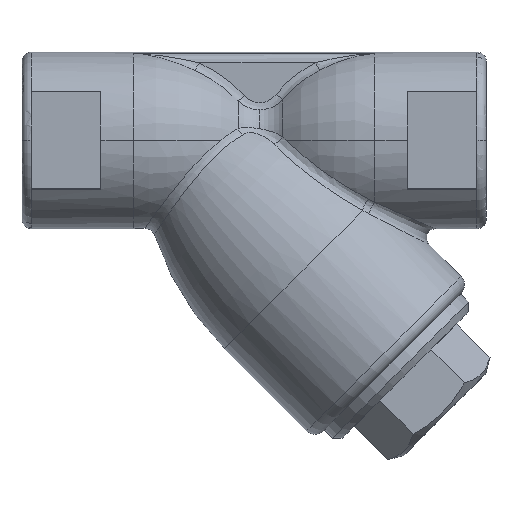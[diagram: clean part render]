
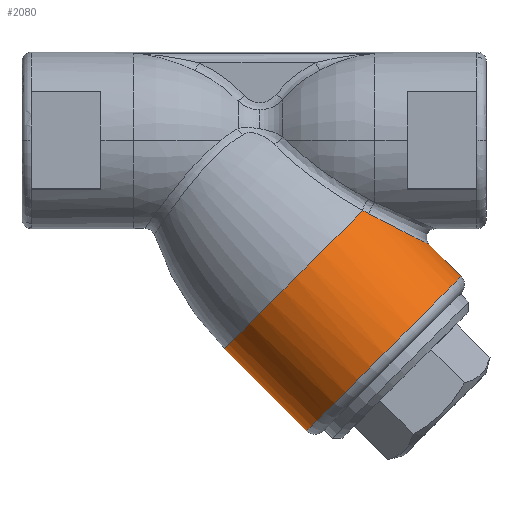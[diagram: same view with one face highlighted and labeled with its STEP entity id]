
A CAD part, top view. The second image highlights one B-rep face of the part: STEP entity #2080.
In plain terms, the highlighted cylindrical face has radius 23.5 mm (diameter 47 mm), a partial arc.
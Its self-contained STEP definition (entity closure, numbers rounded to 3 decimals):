
#9 = ORIENTED_EDGE ( 'NONE', *, *, #748, .T. ) ;
#71 = CARTESIAN_POINT ( 'NONE',  ( 42.854, -15.913, 13.76 ) ) ;
#87 = CARTESIAN_POINT ( 'NONE',  ( 42.371, -15.658, 13.984 ) ) ;
#103 = VERTEX_POINT ( 'NONE', #71 ) ;
#133 = CARTESIAN_POINT ( 'NONE',  ( 41.887, -15.394, 14.19 ) ) ;
#257 = CARTESIAN_POINT ( 'NONE',  ( 62.579, -29.345, 0. ) ) ;
#301 = CARTESIAN_POINT ( 'NONE',  ( 55.648, -22.414, 0. ) ) ;
#328 = CIRCLE ( 'NONE', #1172, 23.5 ) ;
#412 = CARTESIAN_POINT ( 'NONE',  ( -15.32, -17.914, 0. ) ) ;
#414 = LINE ( 'NONE', #1355, #3894 ) ;
#441 = AXIS2_PLACEMENT_3D ( 'NONE', #753, #1807, #1476 ) ;
#495 = FACE_OUTER_BOUND ( 'NONE', #3069, .T. ) ;
#583 = CIRCLE ( 'NONE', #441, 23.5 ) ;
#650 = VERTEX_POINT ( 'NONE', #301 ) ;
#662 = B_SPLINE_CURVE_WITH_KNOTS ( 'NONE', 3,
 ( #3142, #87, #133, #2815 ),
 .UNSPECIFIED., .F., .F.,
 ( 4, 4 ),
 ( 0., 0.002 ),
 .UNSPECIFIED. ) ;
#748 = EDGE_CURVE ( 'NONE', #3709, #650, #414, .T. ) ;
#753 = CARTESIAN_POINT ( 'NONE',  ( 45.962, -45.962, 0. ) ) ;
#845 = VERTEX_POINT ( 'NONE', #866 ) ;
#866 = CARTESIAN_POINT ( 'NONE',  ( 41.403, -15.118, 14.38 ) ) ;
#868 = CARTESIAN_POINT ( 'NONE',  ( 53.252, -21.227, 6.315 ) ) ;
#1064 = LINE ( 'NONE', #412, #3036 ) ;
#1116 = CARTESIAN_POINT ( 'NONE',  ( 42.854, -15.913, 13.76 ) ) ;
#1158 = CARTESIAN_POINT ( 'NONE',  ( 54.629, -21.911, 4.188 ) ) ;
#1172 = AXIS2_PLACEMENT_3D ( 'NONE', #4139, #4183, #1181 ) ;
#1181 = DIRECTION ( 'NONE',  ( -0.707, -0.707, 0. ) ) ;
#1202 = CARTESIAN_POINT ( 'NONE',  ( 52.157, -20.68, 7.569 ) ) ;
#1355 = CARTESIAN_POINT ( 'NONE',  ( 17.914, 15.32, 0. ) ) ;
#1476 = DIRECTION ( 'NONE',  ( 0.707, 0.707, 0. ) ) ;
#1491 = B_SPLINE_CURVE_WITH_KNOTS ( 'NONE', 3,
 ( #2501, #2460, #4203, #1860, #1158, #1834, #868, #1202, #2544, #1815, #3830, #2215, #2808, #2477, #3546, #1116 ),
 .UNSPECIFIED., .F., .F.,
 ( 4, 2, 2, 2, 2, 2, 2, 4 ),
 ( 0.021, 0.024, 0.026, 0.029, 0.031, 0.034, 0.037, 0.042 ),
 .UNSPECIFIED. ) ;
#1512 = VERTEX_POINT ( 'NONE', #3394 ) ;
#1662 = EDGE_CURVE ( 'NONE', #1512, #845, #328, .T. ) ;
#1704 = ORIENTED_EDGE ( 'NONE', *, *, #2835, .T. ) ;
#1736 = EDGE_CURVE ( 'NONE', #650, #103, #1491, .T. ) ;
#1807 = DIRECTION ( 'NONE',  ( -0.707, 0.707, 0. ) ) ;
#1815 = CARTESIAN_POINT ( 'NONE',  ( 50.337, -19.766, 9.237 ) ) ;
#1829 = DIRECTION ( 'NONE',  ( -0.707, 0.707, 0. ) ) ;
#1834 = CARTESIAN_POINT ( 'NONE',  ( 53.761, -21.48, 5.635 ) ) ;
#1854 = CYLINDRICAL_SURFACE ( 'NONE', #4313, 23.5 ) ;
#1860 = CARTESIAN_POINT ( 'NONE',  ( 54.993, -22.09, 3.417 ) ) ;
#2080 = ADVANCED_FACE ( 'NONE', ( #495 ), #1854, .T. ) ;
#2167 = DIRECTION ( 'NONE',  ( -0.707, -0.707, 0. ) ) ;
#2196 = ORIENTED_EDGE ( 'NONE', *, *, #1662, .F. ) ;
#2215 = CARTESIAN_POINT ( 'NONE',  ( 48.393, -18.782, 10.682 ) ) ;
#2460 = CARTESIAN_POINT ( 'NONE',  ( 55.648, -22.414, 0.884 ) ) ;
#2477 = CARTESIAN_POINT ( 'NONE',  ( 45.688, -17.396, 12.366 ) ) ;
#2501 = CARTESIAN_POINT ( 'NONE',  ( 55.648, -22.414, 0. ) ) ;
#2544 = CARTESIAN_POINT ( 'NONE',  ( 51.57, -20.386, 8.148 ) ) ;
#2808 = CARTESIAN_POINT ( 'NONE',  ( 47.725, -18.441, 11.122 ) ) ;
#2815 = CARTESIAN_POINT ( 'NONE',  ( 41.403, -15.118, 14.38 ) ) ;
#2835 = EDGE_CURVE ( 'NONE', #103, #845, #662, .T. ) ;
#3036 = VECTOR ( 'NONE', #3997, 1000. ) ;
#3069 = EDGE_LOOP ( 'NONE', ( #4182, #9, #4138, #1704, #2196, #3313 ) ) ;
#3142 = CARTESIAN_POINT ( 'NONE',  ( 42.854, -15.913, 13.76 ) ) ;
#3157 = VERTEX_POINT ( 'NONE', #3758 ) ;
#3226 = EDGE_CURVE ( 'NONE', #3157, #3709, #583, .T. ) ;
#3313 = ORIENTED_EDGE ( 'NONE', *, *, #3882, .F. ) ;
#3394 = CARTESIAN_POINT ( 'NONE',  ( 11.643, -44.877, 0. ) ) ;
#3521 = CARTESIAN_POINT ( 'NONE',  ( 1.297, -1.297, 0. ) ) ;
#3546 = CARTESIAN_POINT ( 'NONE',  ( 44.286, -16.668, 13.098 ) ) ;
#3709 = VERTEX_POINT ( 'NONE', #257 ) ;
#3758 = CARTESIAN_POINT ( 'NONE',  ( 29.345, -62.579, 0. ) ) ;
#3830 = CARTESIAN_POINT ( 'NONE',  ( 49.698, -19.444, 9.74 ) ) ;
#3882 = EDGE_CURVE ( 'NONE', #3157, #1512, #1064, .T. ) ;
#3894 = VECTOR ( 'NONE', #4023, 1000. ) ;
#3997 = DIRECTION ( 'NONE',  ( -0.707, 0.707, 0. ) ) ;
#4023 = DIRECTION ( 'NONE',  ( -0.707, 0.707, 0. ) ) ;
#4138 = ORIENTED_EDGE ( 'NONE', *, *, #1736, .T. ) ;
#4139 = CARTESIAN_POINT ( 'NONE',  ( 28.26, -28.26, 0. ) ) ;
#4182 = ORIENTED_EDGE ( 'NONE', *, *, #3226, .T. ) ;
#4183 = DIRECTION ( 'NONE',  ( -0.707, 0.707, 0. ) ) ;
#4203 = CARTESIAN_POINT ( 'NONE',  ( 55.51, -22.346, 1.743 ) ) ;
#4313 = AXIS2_PLACEMENT_3D ( 'NONE', #3521, #1829, #2167 ) ;
